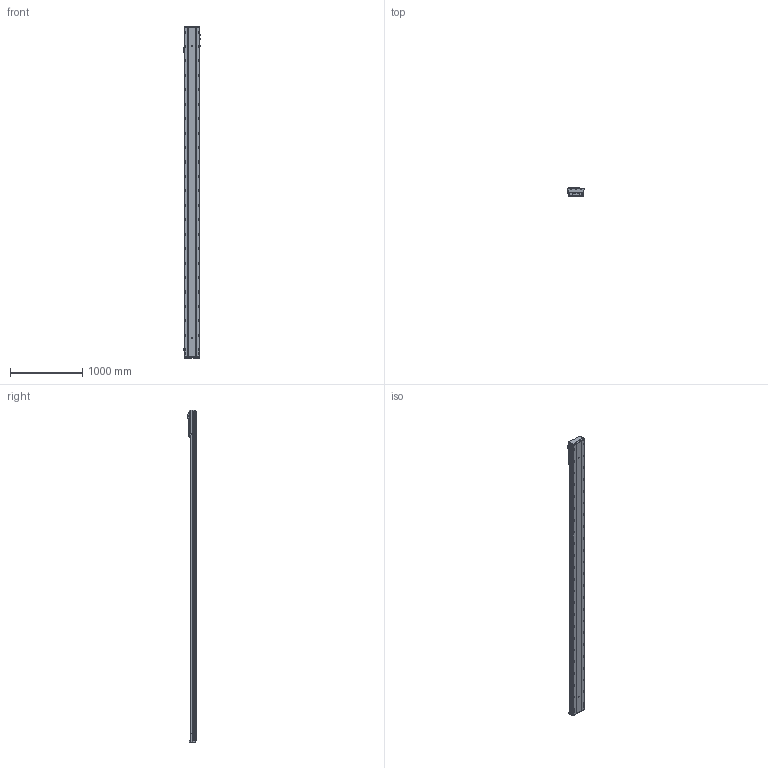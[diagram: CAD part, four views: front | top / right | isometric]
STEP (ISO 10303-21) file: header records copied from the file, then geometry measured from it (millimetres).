
FILE_DESCRIPTION (( 'STEP AP203' ), '1' );
FILE_NAME ('BEH22-A-M2-4150-L1-¦Õ22-PCD100-M6-C3.STEP', '2022-06-21T06:26:14', ( 'CXY' ), ( 'BT' ), 'SwSTEP 2.0', 'SolidWorks 2016', '' );
FILE_SCHEMA (( 'CONFIG_CONTROL_DESIGN' ));
Length unit declared in the file: millimetre
Products named in the file (12): PM-T65; BEH22-04-01_L; BEH22-A-M2-4150-L1-耳22-PCD100-M6-C3; FS-01-10（10毫米）; BEH22-B-01-XX-2; BEH22-04-F; 萇儂階踡輸; BEH22-07-PCD100-80-M6; FS-25-6.66-M2-H22K6; BTH22-07-DZ; _G-M6; FS-02-BTH22
Assembly tree (18 placements, depth 3):
  BEH22-A-M2-4150-L1-耳22-PCD100-M6-C3
    BEH22-B-01-XX-2
    BTH22-07-DZ  x2
    PM-T65  x2
    BEH22-04-01_L
      BEH22-04-F
      萇儂階踡輸
      _G-M6  x3
      FS-02-BTH22
      FS-01-10（10毫米）  x4
      BEH22-07-PCD100-80-M6
      FS-25-6.66-M2-H22K6
Bounding box: 247.7 x 111 x 4598 mm (x, y, z)
Volume: 47135801 mm3; surface area: 4560196.7 mm2
Topology: 21 solids, 21 shells, 2760 faces, 8260 edges, 5386 vertices
Faces by surface type: cylinder 1488, plane 980, cone 233, bspline 37, torus 22
Entity records: 485020 total; most frequent: CARTESIAN_POINT 421183, ORIENTED_EDGE 14340, DIRECTION 11774, EDGE_CURVE 7170, VERTEX_POINT 4746, AXIS2_PLACEMENT_3D 4284, VECTOR 3206, LINE 3206
